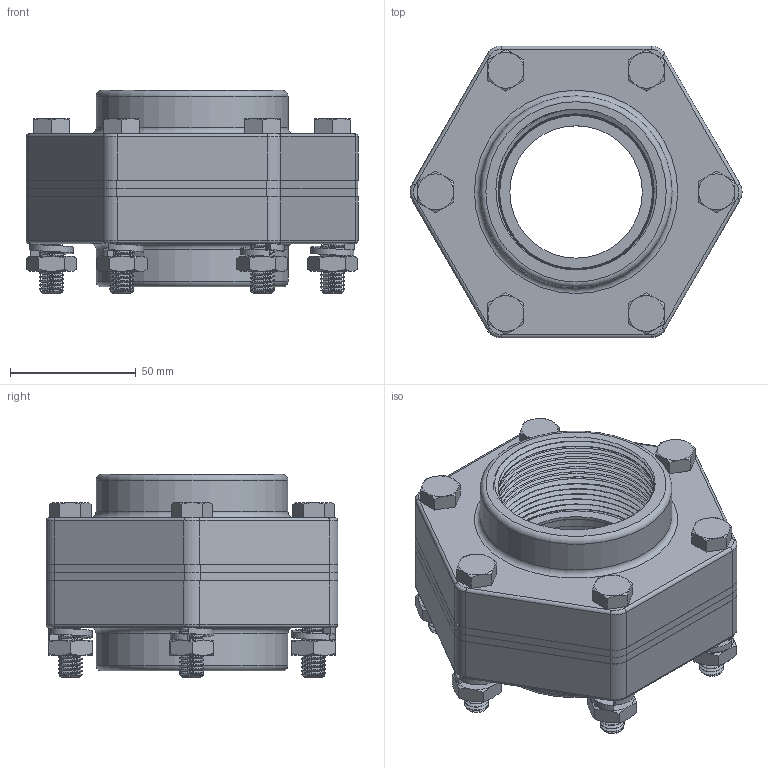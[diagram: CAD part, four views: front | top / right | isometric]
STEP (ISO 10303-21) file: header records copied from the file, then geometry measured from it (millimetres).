
FILE_DESCRIPTION(/* description */ ('Alibre Inc.'),/* implementation_level */ '2;1');
FILE_NAME(/* name */ 'export0',/* time_stamp */ '2017-09-11T10:37:45-04:00',/* author */ (''),/* organization */ (''),/* preprocessor_version */ 'ST-DEVELOPER v14',/* originating_system */ 'Alibre',/* authorisation */ '');
FILE_SCHEMA (('CONFIG_CONTROL_DESIGN'));
Products named in the file (6): ID_1; ID_2; ID_3; ID_4
Bounding box: 131.84 x 115.85 x 80.65 mm (x, y, z)
Volume: 445443.8 mm3; surface area: 158275.9 mm2
Topology: 22 solids, 22 shells, 792 faces, 2088 edges, 1350 vertices
Faces by surface type: cylinder 342, cone 234, plane 152, bspline 48, torus 16
Full cylindrical faces by diameter (mm): 7.112 x12, 10.058 x12, 52.578 x2, 53.086 x2, 76.2 x2
Entity records: 37793 total; most frequent: CARTESIAN_POINT 32317, ORIENTED_EDGE 1010, DIRECTION 824, EDGE_CURVE 505, AXIS2_PLACEMENT_3D 362, VERTEX_POINT 345, EDGE_LOOP 240, FACE_BOUND 240
